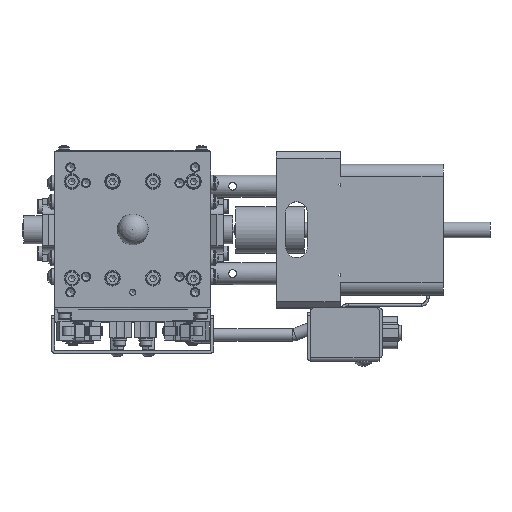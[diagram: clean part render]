
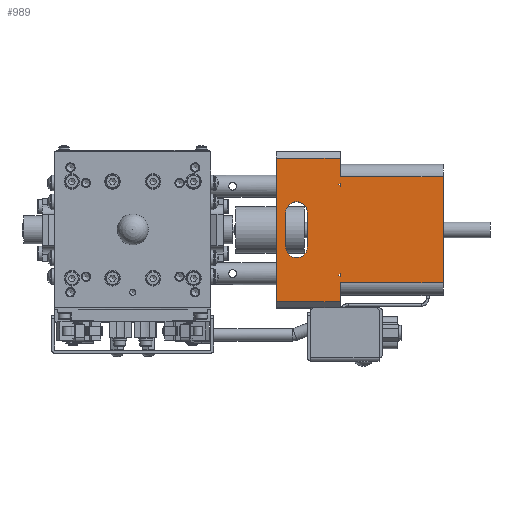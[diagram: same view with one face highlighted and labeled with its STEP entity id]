
A CAD part, top view. The second image highlights one B-rep face of the part: STEP entity #989.
In plain terms, the highlighted planar face has unit normal (0, 0, 1).
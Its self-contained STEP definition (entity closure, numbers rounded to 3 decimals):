
#989=ADVANCED_FACE('',(#11408,#11409,#11410,#11411),#11407,.T.);
#11407=PLANE('',#36326);
#11408=FACE_OUTER_BOUND('',#36327,.T.);
#11409=FACE_BOUND('',#36328,.T.);
#11410=FACE_BOUND('',#36329,.T.);
#11411=FACE_BOUND('',#36330,.T.);
#36323=CARTESIAN_POINT('',(104.85,27.6,29.));
#36324=DIRECTION('',(0.,0.,1.));
#36325=DIRECTION('',(-1.,0.,0.));
#36326=AXIS2_PLACEMENT_3D('',#36323,#36324,#36325);
#36327=EDGE_LOOP('',(#54712,#54713,#54714,#54715,#54716,#54717,#54718,#54719));
#36328=EDGE_LOOP('',(#54720,#54721,#54722));
#36329=EDGE_LOOP('',(#54723,#54724,#54725));
#36330=EDGE_LOOP('',(#54726,#54727,#54728,#54729));
#54712=ORIENTED_EDGE('',*,*,#66884,.F.);
#54713=ORIENTED_EDGE('',*,*,#66885,.T.);
#54714=ORIENTED_EDGE('',*,*,#66886,.T.);
#54715=ORIENTED_EDGE('',*,*,#66887,.T.);
#54716=ORIENTED_EDGE('',*,*,#66888,.F.);
#54717=ORIENTED_EDGE('',*,*,#66889,.T.);
#54718=ORIENTED_EDGE('',*,*,#66890,.F.);
#54719=ORIENTED_EDGE('',*,*,#66891,.T.);
#54720=ORIENTED_EDGE('',*,*,#66892,.T.);
#54721=ORIENTED_EDGE('',*,*,#66850,.T.);
#54722=ORIENTED_EDGE('',*,*,#66893,.T.);
#54723=ORIENTED_EDGE('',*,*,#66846,.T.);
#54724=ORIENTED_EDGE('',*,*,#66894,.T.);
#54725=ORIENTED_EDGE('',*,*,#66895,.T.);
#54726=ORIENTED_EDGE('',*,*,#66896,.T.);
#54727=ORIENTED_EDGE('',*,*,#66897,.T.);
#54728=ORIENTED_EDGE('',*,*,#66898,.F.);
#54729=ORIENTED_EDGE('',*,*,#66899,.T.);
#66846=EDGE_CURVE('',#86146,#86160,#86167,.T.);
#66850=EDGE_CURVE('',#86174,#86188,#86195,.T.);
#66884=EDGE_CURVE('',#86430,#86431,#86432,.T.);
#66885=EDGE_CURVE('',#86430,#86438,#86439,.T.);
#66886=EDGE_CURVE('',#86438,#86445,#86446,.T.);
#66887=EDGE_CURVE('',#86445,#86452,#86453,.T.);
#66888=EDGE_CURVE('',#86459,#86452,#86460,.T.);
#66889=EDGE_CURVE('',#86459,#86466,#86467,.T.);
#66890=EDGE_CURVE('',#86473,#86466,#86474,.T.);
#66891=EDGE_CURVE('',#86473,#86431,#86480,.T.);
#66892=EDGE_CURVE('',#86486,#86174,#86487,.T.);
#66893=EDGE_CURVE('',#86188,#86486,#86493,.T.);
#66894=EDGE_CURVE('',#86160,#86499,#86500,.T.);
#66895=EDGE_CURVE('',#86499,#86146,#86506,.T.);
#66896=EDGE_CURVE('',#86512,#86513,#86514,.T.);
#66897=EDGE_CURVE('',#86513,#86520,#86521,.T.);
#66898=EDGE_CURVE('',#86527,#86520,#86528,.T.);
#66899=EDGE_CURVE('',#86527,#86512,#86534,.T.);
#86146=VERTEX_POINT('',#128922);
#86160=VERTEX_POINT('',#128930);
#86167=LINE('',#128934,#128935);
#86174=VERTEX_POINT('',#128938);
#86188=VERTEX_POINT('',#128946);
#86195=LINE('',#128950,#128951);
#86430=VERTEX_POINT('',#129094);
#86431=VERTEX_POINT('',#129095);
#86432=LINE('',#129096,#129097);
#86438=VERTEX_POINT('',#129099);
#86439=LINE('',#129100,#129101);
#86445=VERTEX_POINT('',#129103);
#86446=LINE('',#129104,#129105);
#86452=VERTEX_POINT('',#129107);
#86453=LINE('',#129108,#129109);
#86459=VERTEX_POINT('',#129111);
#86460=LINE('',#129112,#129113);
#86466=VERTEX_POINT('',#129115);
#86467=LINE('',#129116,#129117);
#86473=VERTEX_POINT('',#129119);
#86474=LINE('',#129120,#129121);
#86480=LINE('',#129123,#129124);
#86486=VERTEX_POINT('',#129126);
#86487=LINE('',#129127,#129128);
#86493=LINE('',#129130,#129131);
#86499=VERTEX_POINT('',#129133);
#86500=LINE('',#129134,#129135);
#86506=LINE('',#129137,#129138);
#86512=VERTEX_POINT('',#129140);
#86513=VERTEX_POINT('',#129141);
#86514=LINE('',#129142,#129143);
#86520=VERTEX_POINT('',#129145);
#86521=CIRCLE('',#129149,3.5);
#86527=VERTEX_POINT('',#129150);
#86528=LINE('',#129151,#129152);
#86534=CIRCLE('',#129157,3.5);
#128922=CARTESIAN_POINT('',(66.5,15.,29.));
#128930=CARTESIAN_POINT('',(66.5,14.,29.));
#128934=CARTESIAN_POINT('',(66.5,15.,29.));
#128935=VECTOR('',#128936,1.);
#128936=DIRECTION('',(0.,-1.,0.));
#128938=CARTESIAN_POINT('',(66.5,-14.,29.));
#128946=CARTESIAN_POINT('',(66.5,-15.,29.));
#128950=CARTESIAN_POINT('',(66.5,-14.,29.));
#128951=VECTOR('',#128952,1.);
#128952=DIRECTION('',(0.,-1.,0.));
#129094=CARTESIAN_POINT('',(66.5,-17.,29.));
#129095=CARTESIAN_POINT('',(66.5,-23.,29.));
#129096=CARTESIAN_POINT('',(66.5,-17.,29.));
#129097=VECTOR('',#129098,6.);
#129098=DIRECTION('',(0.,-1.,0.));
#129099=CARTESIAN_POINT('',(99.5,-17.,29.));
#129100=CARTESIAN_POINT('',(66.5,-17.,29.));
#129101=VECTOR('',#129102,33.);
#129102=DIRECTION('',(1.,0.,0.));
#129103=CARTESIAN_POINT('',(99.5,17.,29.));
#129104=CARTESIAN_POINT('',(99.5,-17.,29.));
#129105=VECTOR('',#129106,34.);
#129106=DIRECTION('',(0.,1.,0.));
#129107=CARTESIAN_POINT('',(66.5,17.,29.));
#129108=CARTESIAN_POINT('',(99.5,17.,29.));
#129109=VECTOR('',#129110,33.);
#129110=DIRECTION('',(-1.,0.,0.));
#129111=CARTESIAN_POINT('',(66.5,23.,29.));
#129112=CARTESIAN_POINT('',(66.5,23.,29.));
#129113=VECTOR('',#129114,6.);
#129114=DIRECTION('',(0.,-1.,0.));
#129115=CARTESIAN_POINT('',(46.,23.,29.));
#129116=CARTESIAN_POINT('',(66.5,23.,29.));
#129117=VECTOR('',#129118,20.5);
#129118=DIRECTION('',(-1.,0.,0.));
#129119=CARTESIAN_POINT('',(46.,-23.,29.));
#129120=CARTESIAN_POINT('',(46.,-23.,29.));
#129121=VECTOR('',#129122,46.);
#129122=DIRECTION('',(0.,1.,0.));
#129123=CARTESIAN_POINT('',(46.,-23.,29.));
#129124=VECTOR('',#129125,20.5);
#129125=DIRECTION('',(1.,0.,0.));
#129126=CARTESIAN_POINT('',(66.,-14.5,29.));
#129127=CARTESIAN_POINT('',(66.,-14.5,29.));
#129128=VECTOR('',#129129,0.707);
#129129=DIRECTION('',(0.707,0.707,0.));
#129130=CARTESIAN_POINT('',(66.5,-15.,29.));
#129131=VECTOR('',#129132,0.707);
#129132=DIRECTION('',(-0.707,0.707,0.));
#129133=CARTESIAN_POINT('',(66.,14.5,29.));
#129134=CARTESIAN_POINT('',(66.5,14.,29.));
#129135=VECTOR('',#129136,0.707);
#129136=DIRECTION('',(-0.707,0.707,0.));
#129137=CARTESIAN_POINT('',(66.,14.5,29.));
#129138=VECTOR('',#129139,0.707);
#129139=DIRECTION('',(0.707,0.707,0.));
#129140=CARTESIAN_POINT('',(49.,-5.5,29.));
#129141=CARTESIAN_POINT('',(49.,5.5,29.));
#129142=CARTESIAN_POINT('',(49.,-5.5,29.));
#129143=VECTOR('',#129144,11.);
#129144=DIRECTION('',(0.,1.,0.));
#129145=CARTESIAN_POINT('',(56.,5.5,29.));
#129146=CARTESIAN_POINT('',(52.5,5.5,29.));
#129147=DIRECTION('',(0.,0.,-1.));
#129148=DIRECTION('',(-1.,0.,0.));
#129149=AXIS2_PLACEMENT_3D('',#129146,#129147,#129148);
#129150=CARTESIAN_POINT('',(56.,-5.5,29.));
#129151=CARTESIAN_POINT('',(56.,-5.5,29.));
#129152=VECTOR('',#129153,11.);
#129153=DIRECTION('',(0.,1.,0.));
#129154=CARTESIAN_POINT('',(52.5,-5.5,29.));
#129155=DIRECTION('',(0.,0.,-1.));
#129156=DIRECTION('',(-1.,0.,0.));
#129157=AXIS2_PLACEMENT_3D('',#129154,#129155,#129156);
